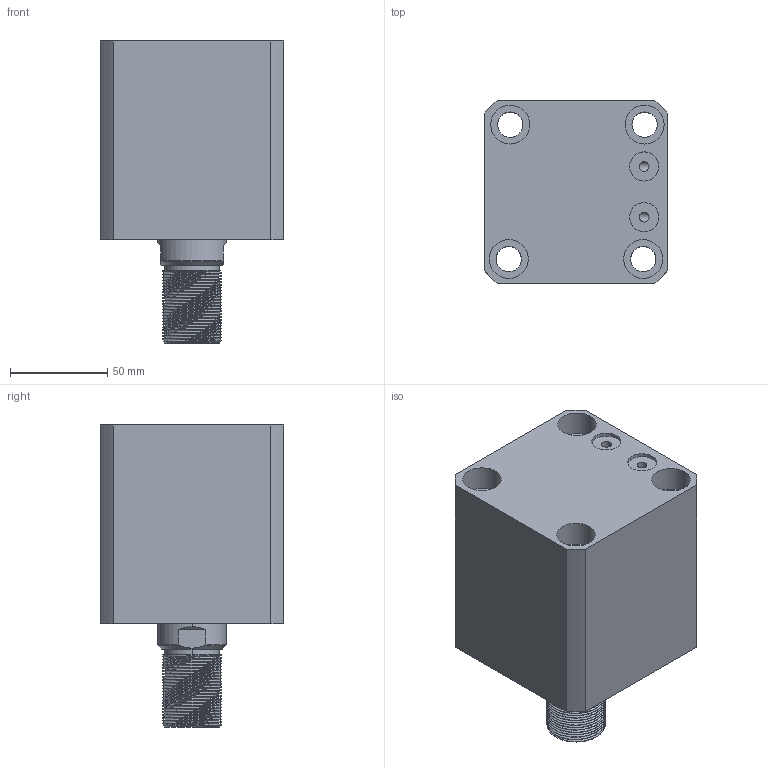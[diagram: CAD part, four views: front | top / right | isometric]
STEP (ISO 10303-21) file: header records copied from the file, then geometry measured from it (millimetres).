
FILE_DESCRIPTION (( 'STEP AP214' ), '1' );
FILE_NAME ('chtb-sdmb63x35w_asm.STEP', '2018-05-18T11:06:26', ( 'Windows' ), ( 'Microsoft' ), 'SwSTEP 2.0', 'SolidWorks 2015', '' );
FILE_SCHEMA (( 'AUTOMOTIVE_DESIGN' ));
Length unit declared in the file: millimetre
Products named in the file (4): CHTB-SDMB63X35NBT; CHTB63X35WHSG; CHTB-63QG; chtb-sdmb63x35w_asm
Assembly tree (3 placements, depth 2):
  chtb-sdmb63x35w_asm
    CHTB-63QG
    CHTB63X35WHSG
    CHTB-SDMB63X35NBT
Bounding box: 94 x 94 x 155 mm (x, y, z)
Volume: 781587.9 mm3; surface area: 137383 mm2
Topology: 3 solids, 3 shells, 218 faces, 628 edges, 427 vertices
Faces by surface type: cylinder 156, plane 33, bspline 14, cone 9, torus 6
Entity records: 22278 total; most frequent: CARTESIAN_POINT 17042, ORIENTED_EDGE 1248, DIRECTION 869, EDGE_CURVE 624, VERTEX_POINT 427, AXIS2_PLACEMENT_3D 339, EDGE_LOOP 251, FACE_OUTER_BOUND 218
